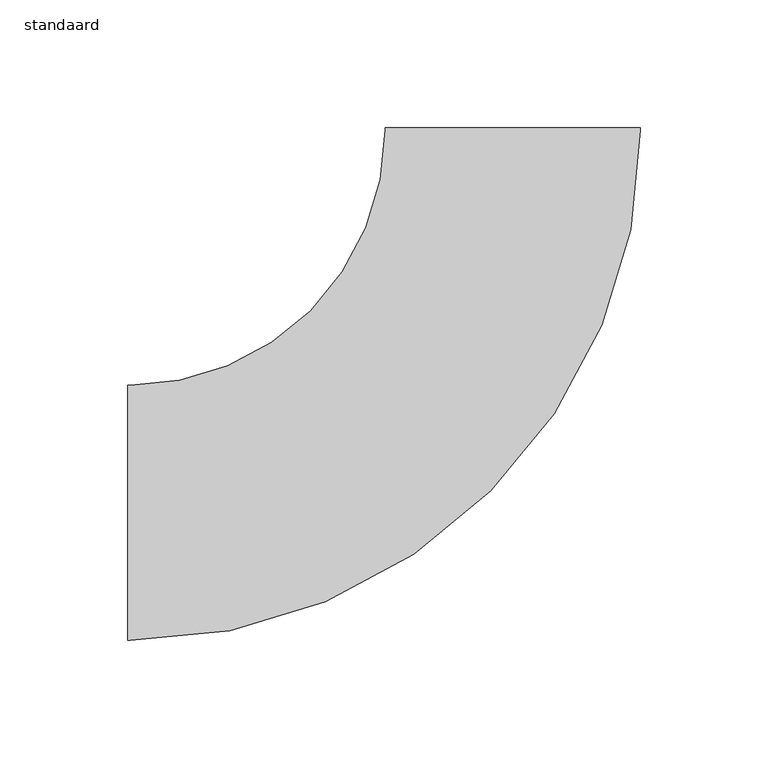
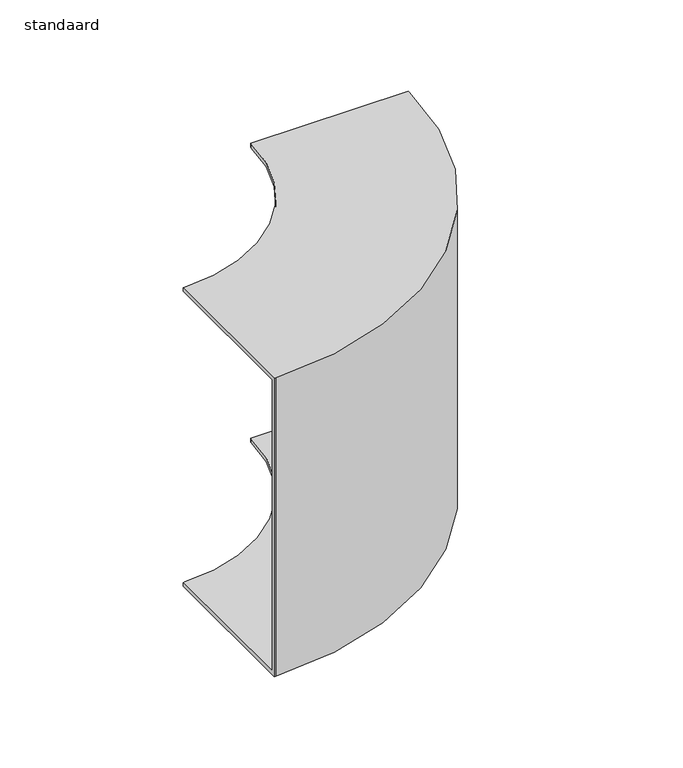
"""IFC4 building model written with IfcOpenShell, lengths in millimetres: cable carrier fitting geometry, AI_Raccord cdc_Coude montant : standaard."""

from ifc_helpers import new_model, si_unit, frame, origin, place, context, project, spatial, polyline, circle_curve, source, transform, mapped, element, save
from ifc_brep_helpers import plane_surface, cylinder_surface, revolved_surface, advanced_brep


def standaard_30cef89a(model_context):
    return source(origin(), model_context, "Body", "AdvancedBrep", [
        advanced_brep(
        [(-151.0, 50.0, 100.0), (-151.0, 50.0, 97.46), (-151.0, -47.46, 97.46), (-151.0, -47.46, -97.46), (-151.0, 50.0, -97.46), (-151.0, 50.0, -100.0), (-151.0, -50.0, -100.0), (-151.0, -50.0, 100.0), (-50.0, 151.0, 100.0), (50.0, 151.0, 100.0), (50.0, 151.0, -100.0), (-50.0, 151.0, -100.0), (-50.0, 151.0, -97.46), (47.46, 151.0, -97.46), (47.46, 151.0, 97.46), (-50.0, 151.0, 97.46), (-150.0, -50.0, 100.0), (50.0, 150.0, 100.0), (-50.0, 150.0, 100.0), (-150.0, 50.0, 100.0), (-150.0, -50.0, -100.0), (-150.0, 50.0, -100.0), (-50.0, 150.0, -100.0), (50.0, 150.0, -100.0), (-150.0, 50.0, -97.46), (-150.0, -47.46, -97.46), (47.46, 150.0, -97.46), (-50.0, 150.0, -97.46), (-150.0, -47.46, 97.46), (-150.0, 50.0, 97.46), (-50.0, 150.0, 97.46), (47.46, 150.0, 97.46)],
        [
            (0, 1),
            (1, 2),
            (2, 3),
            (3, 4),
            (4, 5),
            (5, 6),
            (6, 7),
            (7, 0),
            (8, 9),
            (9, 10),
            (10, 11),
            (11, 12),
            (12, 13),
            (13, 14),
            (14, 15),
            (15, 8),
            (7, 16),
            (16, 17, circle_curve(frame((-150.0, 150.0, 100.0), z_axis=(0.0, 0.0, 1.0), x_axis=(0.0, -1.0, 0.0)), 200.0)),
            (17, 9),
            (8, 18),
            (18, 19, circle_curve(frame((-150.0, 150.0, 100.0), z_axis=(0.0, 0.0, -1.0), x_axis=(0.0, -1.0, 0.0)), 100.0)),
            (19, 0),
            (6, 20),
            (20, 16),
            (5, 21),
            (21, 22, circle_curve(frame((-150.0, 150.0, -100.0), z_axis=(0.0, 0.0, 1.0), x_axis=(0.0, -1.0, 0.0)), 100.0)),
            (22, 11),
            (10, 23),
            (23, 20, circle_curve(frame((-150.0, 150.0, -100.0), z_axis=(0.0, 0.0, -1.0), x_axis=(0.0, -1.0, 0.0)), 200.0)),
            (4, 24),
            (24, 21),
            (3, 25),
            (25, 26, circle_curve(frame((-150.0, 150.0, -97.46), z_axis=(0.0, 0.0, 1.0), x_axis=(0.0, -1.0, 0.0)), 197.46)),
            (26, 13),
            (12, 27),
            (27, 24, circle_curve(frame((-150.0, 150.0, -97.46), z_axis=(0.0, 0.0, -1.0), x_axis=(0.0, -1.0, 0.0)), 100.0)),
            (2, 28),
            (28, 25),
            (1, 29),
            (29, 30, circle_curve(frame((-150.0, 150.0, 97.46), z_axis=(0.0, 0.0, 1.0), x_axis=(0.0, -1.0, 0.0)), 100.0)),
            (30, 15),
            (14, 31),
            (31, 28, circle_curve(frame((-150.0, 150.0, 97.46), z_axis=(0.0, 0.0, -1.0), x_axis=(0.0, -1.0, 0.0)), 197.46)),
            (19, 29),
            (23, 17),
            (27, 22),
            (31, 26),
            (18, 30),
        ],
        [
            plane_surface(frame((-151.0, 0.0, 0.0), z_axis=(-1.0, -4.8898218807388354e-12, 0.0), x_axis=(0.0, 0.0, 1.0))),
            plane_surface(frame((0.0, 151.0, 0.0), z_axis=(0.0, 1.0, 0.0), x_axis=(0.0, 0.0, 1.0))),
            plane_surface(frame((-151.0, -50.0, 100.0), z_axis=(0.0, 0.0, 1.0), x_axis=(1.0, 4.872902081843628e-12, 0.0))),
            plane_surface(frame((-151.0, -50.0, -100.0), z_axis=(4.898281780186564e-12, -1.0, 0.0), x_axis=(1.0, 4.898281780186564e-12, 0.0))),
            plane_surface(frame((-151.0, 50.0, -100.0), z_axis=(0.0, 0.0, -1.0), x_axis=(1.0, 4.889821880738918e-12, 0.0))),
            plane_surface(frame((-151.0, 50.0, -97.46), z_axis=(-4.889821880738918e-12, 1.0, 0.0), x_axis=(1.0, 4.889821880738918e-12, 0.0))),
            plane_surface(frame((-151.0, -47.46, -97.46), z_axis=(0.0, 0.0, 1.0), x_axis=(1.0, 4.889821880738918e-12, 0.0))),
            plane_surface(frame((-151.0, -47.46, 97.46), z_axis=(-4.889821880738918e-12, 1.0, 0.0), x_axis=(1.0, 4.889821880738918e-12, 0.0))),
            plane_surface(frame((-151.0, 50.0, 97.46), z_axis=(0.0, 0.0, -1.0), x_axis=(1.0, 4.889821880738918e-12, 0.0))),
            plane_surface(frame((-151.0, 50.0, 100.0), z_axis=(-4.889821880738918e-12, 1.0, 0.0), x_axis=(1.0, 4.889821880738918e-12, 0.0))),
            cylinder_surface(frame((-150.0, 150.0, 0.0), z_axis=(0.0, 0.0, 1.0), x_axis=(0.0, -1.0, 0.0)), 200.0),
            revolved_surface(polyline([(-150.0, 50.0, -97.46), (-150.0, 50.0, -100.0)]), (-150.0, 150.0, 0.0), (0.0, 0.0, 1.0)),
            revolved_surface(polyline([(-150.0, -47.46000000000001, 97.46), (-150.0, -47.46000000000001, -97.46)]), (-150.0, 150.0, 0.0), (0.0, 0.0, 1.0)),
            revolved_surface(polyline([(-150.0, 50.0, 100.0), (-150.0, 50.0, 97.46)]), (-150.0, 150.0, 0.0), (0.0, 0.0, 1.0)),
            plane_surface(frame((50.0, 150.0, -100.0), z_axis=(1.0, 0.0, 0.0), x_axis=(0.0, 1.0, 0.0))),
            plane_surface(frame((-50.0, 150.0, -97.46), z_axis=(-1.0, 0.0, 0.0), x_axis=(0.0, 1.0, 0.0))),
            plane_surface(frame((47.46, 150.0, 97.46), z_axis=(-1.0, 0.0, 0.0), x_axis=(0.0, 1.0, 0.0))),
            plane_surface(frame((-50.0, 150.0, 100.0), z_axis=(-1.0, 0.0, 0.0), x_axis=(0.0, 1.0, 0.0))),
        ],
        [
            (0, [[1, 2, 3, 4, 5, 6, 7, 8]]),
            (1, [[9, 10, 11, 12, 13, 14, 15, 16]]),
            (2, [[-8, 17, 18, 19, -9, 20, 21, 22]]),
            (3, [[-7, 23, 24, -17]]),
            (4, [[-6, 25, 26, 27, -11, 28, 29, -23]]),
            (5, [[-5, 30, 31, -25]]),
            (6, [[-4, 32, 33, 34, -13, 35, 36, -30]]),
            (7, [[-3, 37, 38, -32]]),
            (8, [[-2, 39, 40, 41, -15, 42, 43, -37]]),
            (9, [[-1, -22, 44, -39]]),
            (10, [[-18, -24, -29, 45]]),
            (11, [[-26, -31, -36, 46]]),
            (12, [[-33, -38, -43, 47]]),
            (13, [[-40, -44, -21, 48]]),
            (14, [[-45, -28, -10, -19]]),
            (15, [[-46, -35, -12, -27]]),
            (16, [[-47, -42, -14, -34]]),
            (17, [[-48, -20, -16, -41]]),
        ],
    ),
    ])


if __name__ == "__main__":
    model = new_model("IFC4")
    model_context = context("Model", 3, world=origin())
    ifc_project = project(units=[si_unit("LENGTHUNIT", "METRE", prefix="MILLI")], contexts=[model_context])
    site = spatial("IfcSite", under=ifc_project)
    building = spatial("IfcBuilding", under=site)
    placement = place(None, origin())
    standaard_shape = standaard_30cef89a(model_context)
    element("IfcCableCarrierFitting", 1, ObjectType="AI_Raccord cdc_Coude montant : standaard", at=placement, inside=building, context=model_context, shape_type="MappedRepresentation", body=[
        mapped(standaard_shape, transform((0.0, 0.0, 0.0), x_axis=(1.0, 0.0, 0.0), y_axis=(0.0, 1.0, 0.0), z_axis=(0.0, 0.0, 1.0))),
    ])
    save(model, "model.ifc")
